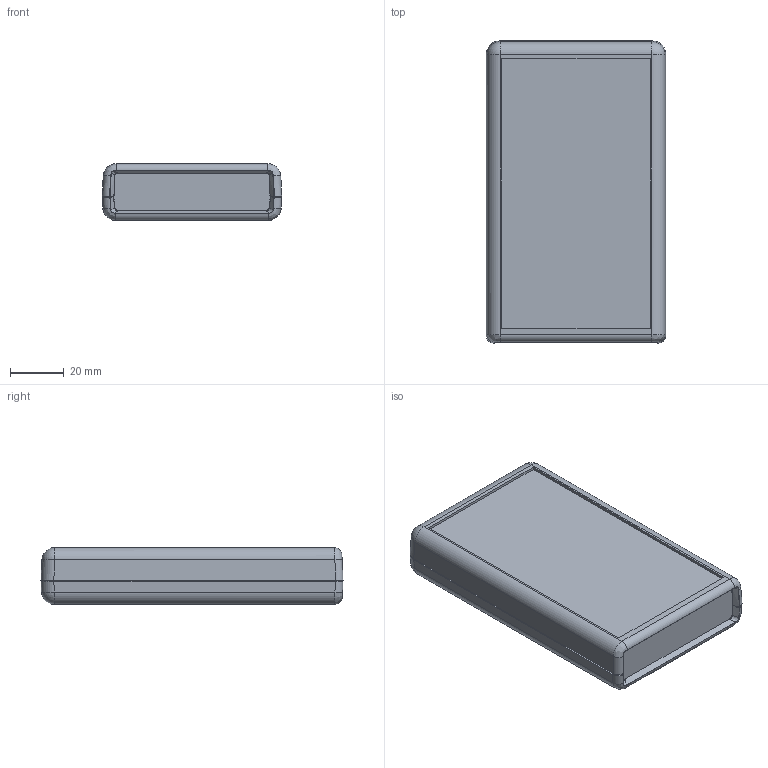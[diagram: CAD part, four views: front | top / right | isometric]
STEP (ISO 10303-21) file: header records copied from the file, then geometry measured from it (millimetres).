
FILE_DESCRIPTION(/* description */ (''),/* implementation_level */ '2;1');
FILE_NAME(/* name */ 'E:\Eng\Customer Service\Drawings\working on 1593\STEP\1593T\1593T.iam.stp',/* time_stamp */ '2016-04-25T15:45:28-04:00',/* author */ ('lwalsh'),/* organization */ (''),/* preprocessor_version */ 'ST-DEVELOPER v16.1',/* originating_system */ 'Autodesk Inventor 2016',/* authorisation */ '');
FILE_SCHEMA (('AUTOMOTIVE_DESIGN { 1 0 10303 214 3 1 1 }'));
Products named in the file (7): 1593Q,T Bottom; 1593T Top; 1593S-T Endplate; 1593P,Q,S,T,Y Battery Cover; 1593Q,T PCB; #22621; 1593T
Assembly tree (5 placements, depth 2):
  #22621
  1593T
    1593Q,T Bottom
    1593T Top
    1593S-T Endplate
    1593P,Q,S,T,Y Battery Cover
    1593Q,T PCB
Bounding box: 66.5 x 112 x 21 mm (x, y, z)
Volume: 59282.9 mm3; surface area: 55683.5 mm2
Topology: 9 solids, 9 shells, 755 faces, 1982 edges, 1302 vertices
Faces by surface type: plane 435, cylinder 154, bspline 94, cone 46, torus 14, sphere 12
Full cylindrical faces by diameter (mm): 2.25 x8, 2.311 x4, 2.8 x4, 2.845 x4, 2.9 x8, 3 x4, 3.2 x4, 5.742 x4
Entity records: 22603 total; most frequent: CARTESIAN_POINT 6700, ORIENTED_EDGE 3318, DIRECTION 3023, EDGE_CURVE 1659, VERTEX_POINT 1119, LINE 1035, VECTOR 1035, AXIS2_PLACEMENT_3D 994
